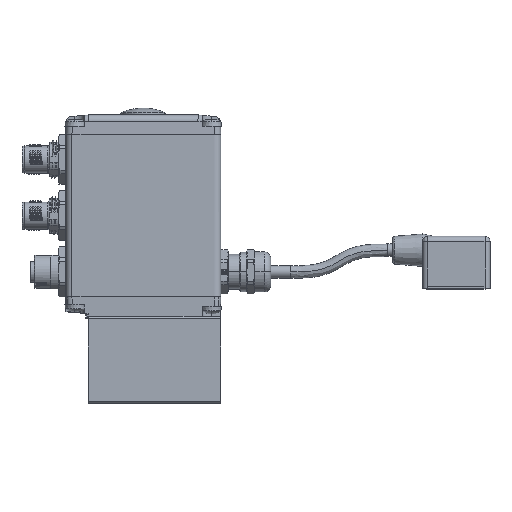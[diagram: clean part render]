
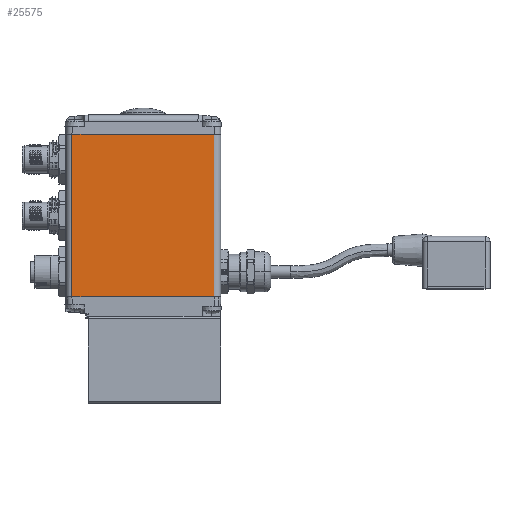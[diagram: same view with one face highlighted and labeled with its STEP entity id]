
A CAD part, top view. The second image highlights one B-rep face of the part: STEP entity #25575.
In plain terms, the highlighted planar face has unit normal (0, 0, 1).
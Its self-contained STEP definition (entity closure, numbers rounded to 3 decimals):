
#8658 = CARTESIAN_POINT ( 'NONE',  ( -2.5, 90.3, 17.65 ) ) ;
#8659 = DIRECTION ( 'NONE',  ( 0., -1., 0. ) ) ;
#9409 = LINE ( 'NONE', #8658, #9415 ) ;
#9415 = VECTOR ( 'NONE', #8659, 1000. ) ;
#25575 = ADVANCED_FACE ( 'NONE', ( #91609 ), #95294, .F. ) ;
#26983 = CARTESIAN_POINT ( 'NONE',  ( -59.5, 90.3, 17.65 ) ) ;
#26984 = CARTESIAN_POINT ( 'NONE',  ( -59.5, 25.3, 17.65 ) ) ;
#39832 = CARTESIAN_POINT ( 'NONE',  ( -59.5, 25.3, 17.65 ) ) ;
#39858 = DIRECTION ( 'NONE',  ( -1., 0., 0. ) ) ;
#39862 = CARTESIAN_POINT ( 'NONE',  ( -59.5, 90.3, 17.65 ) ) ;
#39868 = DIRECTION ( 'NONE',  ( -1., 0., 0. ) ) ;
#40094 = EDGE_CURVE ( 'NONE', #77146, #77149, #9409, .T. ) ;
#47424 = EDGE_CURVE ( 'NONE', #51761, #51762, #69959, .T. ) ;
#47431 = EDGE_CURVE ( 'NONE', #77149, #51762, #69968, .T. ) ;
#47432 = EDGE_CURVE ( 'NONE', #77146, #51761, #69960, .T. ) ;
#51761 = VERTEX_POINT ( 'NONE', #26983 ) ;
#51762 = VERTEX_POINT ( 'NONE', #26984 ) ;
#54442 = CARTESIAN_POINT ( 'NONE',  ( -59.5, 90.3, 17.65 ) ) ;
#54443 = DIRECTION ( 'NONE',  ( 0., -1., 0. ) ) ;
#69959 = LINE ( 'NONE', #54442, #69961 ) ;
#69960 = LINE ( 'NONE', #39862, #69973 ) ;
#69961 = VECTOR ( 'NONE', #54443, 1000. ) ;
#69968 = LINE ( 'NONE', #39832, #69970 ) ;
#69970 = VECTOR ( 'NONE', #39858, 1000. ) ;
#69973 = VECTOR ( 'NONE', #39868, 1000. ) ;
#77146 = VERTEX_POINT ( 'NONE', #83472 ) ;
#77149 = VERTEX_POINT ( 'NONE', #83475 ) ;
#79517 = AXIS2_PLACEMENT_3D ( 'NONE', #95307, #95308, #95309 ) ;
#83472 = CARTESIAN_POINT ( 'NONE',  ( -2.5, 90.3, 17.65 ) ) ;
#83475 = CARTESIAN_POINT ( 'NONE',  ( -2.5, 25.3, 17.65 ) ) ;
#85171 = EDGE_LOOP ( 'NONE', ( #104824, #104825, #104826, #104827 ) ) ;
#91609 = FACE_OUTER_BOUND ( 'NONE', #85171, .T. ) ;
#95294 = PLANE ( 'NONE',  #79517 ) ;
#95307 = CARTESIAN_POINT ( 'NONE',  ( -59.5, 90.3, 17.65 ) ) ;
#95308 = DIRECTION ( 'NONE',  ( 0., 0., -1. ) ) ;
#95309 = DIRECTION ( 'NONE',  ( 1., 0., 0. ) ) ;
#104824 = ORIENTED_EDGE ( 'NONE', *, *, #47431, .F. ) ;
#104825 = ORIENTED_EDGE ( 'NONE', *, *, #40094, .F. ) ;
#104826 = ORIENTED_EDGE ( 'NONE', *, *, #47432, .T. ) ;
#104827 = ORIENTED_EDGE ( 'NONE', *, *, #47424, .T. ) ;
